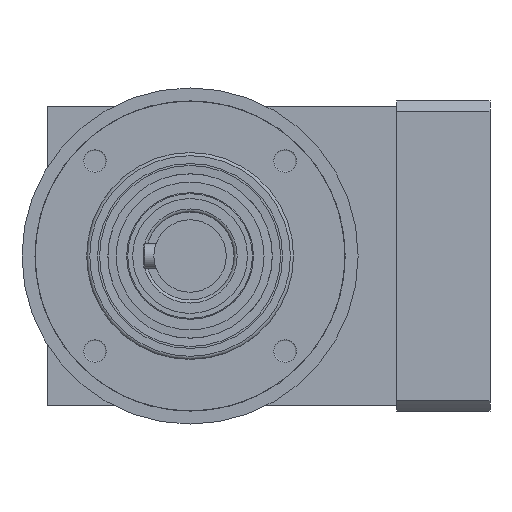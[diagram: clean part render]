
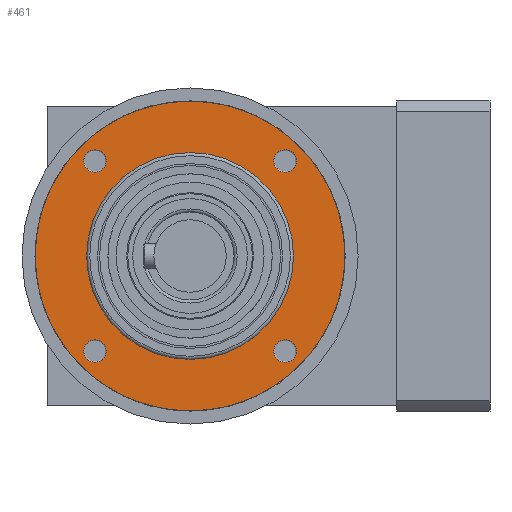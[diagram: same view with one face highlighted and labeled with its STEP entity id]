
A CAD part, left-side view. The second image highlights one B-rep face of the part: STEP entity #461.
In plain terms, the highlighted planar face has unit normal (-1, 0, 0).
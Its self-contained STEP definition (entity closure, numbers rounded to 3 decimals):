
#461=ADVANCED_FACE('',(#692,#693,#694,#695,#696),#602,.T.);
#602=PLANE('',#2112);
#692=FACE_BOUND('',#926,.T.);
#693=FACE_BOUND('',#927,.T.);
#694=FACE_BOUND('',#928,.T.);
#695=FACE_BOUND('',#929,.T.);
#696=FACE_BOUND('',#930,.T.);
#926=EDGE_LOOP('',(#1190));
#927=EDGE_LOOP('',(#1191));
#928=EDGE_LOOP('',(#1192));
#929=EDGE_LOOP('',(#1193));
#930=EDGE_LOOP('',(#1194));
#1190=ORIENTED_EDGE('',*,*,#1756,.T.);
#1191=ORIENTED_EDGE('',*,*,#1757,.T.);
#1192=ORIENTED_EDGE('',*,*,#1758,.T.);
#1193=ORIENTED_EDGE('',*,*,#1759,.T.);
#1194=ORIENTED_EDGE('',*,*,#1760,.T.);
#1576=VERTEX_POINT('',#3054);
#1577=VERTEX_POINT('',#3056);
#1578=VERTEX_POINT('',#3058);
#1579=VERTEX_POINT('',#3060);
#1580=VERTEX_POINT('',#3062);
#1756=EDGE_CURVE('',#1576,#1576,#1956,.T.);
#1757=EDGE_CURVE('',#1577,#1577,#1957,.T.);
#1758=EDGE_CURVE('',#1578,#1578,#1958,.T.);
#1759=EDGE_CURVE('',#1579,#1579,#1959,.T.);
#1760=EDGE_CURVE('',#1580,#1580,#1960,.T.);
#1956=CIRCLE('',#2107,2.175);
#1957=CIRCLE('',#2108,2.175);
#1958=CIRCLE('',#2109,2.175);
#1959=CIRCLE('',#2110,2.175);
#1960=CIRCLE('',#2111,30.);
#2107=AXIS2_PLACEMENT_3D('',#3053,#2431,#2432);
#2108=AXIS2_PLACEMENT_3D('',#3055,#2433,#2434);
#2109=AXIS2_PLACEMENT_3D('',#3057,#2435,#2436);
#2110=AXIS2_PLACEMENT_3D('',#3059,#2437,#2438);
#2111=AXIS2_PLACEMENT_3D('',#3061,#2439,#2440);
#2112=AXIS2_PLACEMENT_3D('',#3063,#2441,#2442);
#2431=DIRECTION('',(1.,0.,0.));
#2432=DIRECTION('',(0.,-0.707,-0.707));
#2433=DIRECTION('',(1.,0.,0.));
#2434=DIRECTION('',(0.,0.707,-0.707));
#2435=DIRECTION('',(1.,0.,0.));
#2436=DIRECTION('',(0.,0.707,0.707));
#2437=DIRECTION('',(1.,0.,0.));
#2438=DIRECTION('',(0.,-0.707,0.707));
#2439=DIRECTION('',(-1.,0.,0.));
#2440=DIRECTION('',(0.,-0.707,0.707));
#2441=DIRECTION('',(-1.,0.,0.));
#2442=DIRECTION('',(0.,-0.707,0.707));
#3053=CARTESIAN_POINT('',(-74.25,-18.385,18.385));
#3054=CARTESIAN_POINT('',(-74.25,-19.923,16.847));
#3055=CARTESIAN_POINT('',(-74.25,-18.385,-18.385));
#3056=CARTESIAN_POINT('',(-74.25,-16.847,-19.923));
#3057=CARTESIAN_POINT('',(-74.25,18.385,-18.385));
#3058=CARTESIAN_POINT('',(-74.25,19.923,-16.847));
#3059=CARTESIAN_POINT('',(-74.25,18.385,18.385));
#3060=CARTESIAN_POINT('',(-74.25,16.847,19.923));
#3061=CARTESIAN_POINT('',(-74.25,0.,0.));
#3062=CARTESIAN_POINT('',(-74.25,-21.213,21.213));
#3063=CARTESIAN_POINT('',(-74.25,0.,0.));
